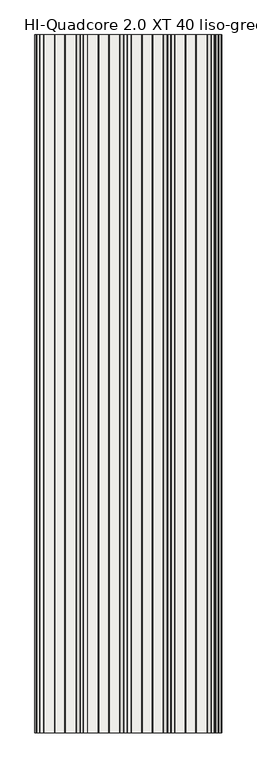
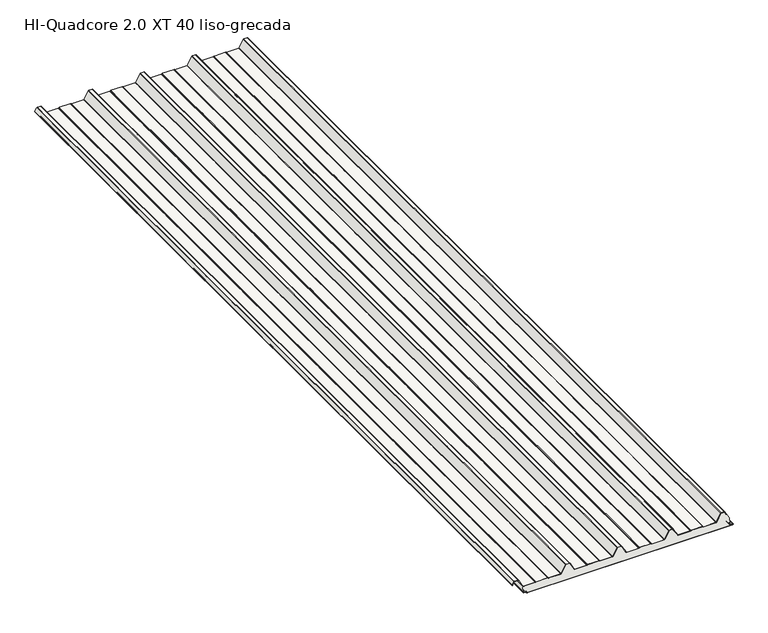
"""IFC4 building model written with IfcOpenShell, lengths in millimetres: slab geometry, Panel_HI_QuadCore 2.0 XT-XT DUAL_liso-grecada : HI-Quadcore 2.0 XT 40 liso-grecada."""

from ifc_helpers import new_model, si_unit, point, frame, frame_2d, origin, place, context, project, spatial, polyline, circle_curve, trimmed, segment, composite_curve, outline, extrude, source, transform, mapped, element, save
from ifc_brep_helpers import plane_surface, cylinder_surface, revolved_surface, advanced_brep


def hi_quadcore_2_0_xt_40_liso_grecada_2684bdf8(model_context):
    return source(origin(), model_context, "Body", "SolidModel", [
        advanced_brep(
        [(-463.5686109, 0.0, 13.3795578), (-464.1543582, 0.0, 11.9654043), (-464.1543963, 0.0, 8.2995811), (-462.3003213, 0.0, 6.328543), (-451.8922768, 0.0, 5.5663871), (-450.0967368, 0.0, 3.5769209), (-450.0966924, 0.0, 1.9756011), (-448.096637, 0.0, -0.0243435), (547.9162803, 0.0, 0.003269), (549.9046779, 0.0, 2.0032908), (549.904653, 0.0, 2.9012893), (548.0077486, 0.0, 4.8985749), (536.1928118, 0.0, 5.7933732), (534.3438482, 0.0, 7.7876066), (534.3437386, 0.0, 11.7402379), (533.757913, 0.0, 13.1544352), (532.3436602, 0.0, 14.5686095), (531.7779748, 0.0, 14.0029241), (533.1922433, 0.0, 12.5887341), (533.5437386, 0.0, 11.7402157), (533.5438482, 0.0, 7.7875844), (536.1323972, 0.0, 4.9956577), (547.958132, 0.0, 4.1000416), (549.104653, 0.0, 2.9012672), (549.1046779, 0.0, 2.0032686), (547.9136554, 0.0, 0.8032689), (-448.0966592, 0.0, 0.7756565), (-449.2966924, 0.0, 1.9756233), (-449.2967368, 0.0, 3.5769431), (-451.8231384, 0.0, 6.3634663), (-462.2418956, 0.0, 7.1264067), (-463.3542572, 0.0, 8.3231689), (-463.3543582, 0.0, 11.965396), (-463.0029098, 0.0, 12.8138881), (-460.8967817, 0.0, 14.920133), (-461.4624671, 0.0, 15.4858184), (-463.5686109, 4000.0, 13.3795578), (-461.4624671, 4000.0, 15.4858184), (-460.8967817, 4000.0, 14.920133), (-463.0029098, 4000.0, 12.8138881), (-463.3543582, 4000.0, 11.965396), (-463.3543963, 4000.0, 8.2995728), (-462.2418956, 4000.0, 7.1264067), (-451.8231384, 4000.0, 6.3634663), (-449.2967368, 4000.0, 3.5769431), (-449.2966924, 4000.0, 1.9756233), (-448.0966592, 4000.0, 0.7756565), (547.9136554, 4000.0, 0.8032689), (549.1046779, 4000.0, 2.0032686), (549.104653, 4000.0, 2.9012672), (547.958132, 4000.0, 4.1000416), (536.1323972, 4000.0, 4.9956577), (533.5438482, 4000.0, 7.7875844), (533.5437386, 4000.0, 11.7402157), (533.1922433, 4000.0, 12.5887341), (531.7779748, 4000.0, 14.0029241), (532.3436602, 4000.0, 14.5686095), (533.757913, 4000.0, 13.1544352), (534.3437386, 4000.0, 11.7402379), (534.3438482, 4000.0, 7.7876066), (536.1928118, 4000.0, 5.7933732), (548.0077486, 4000.0, 4.8985749), (549.904653, 4000.0, 2.9012893), (549.9046779, 4000.0, 2.0032908), (547.9162803, 4000.0, 0.003269), (-448.096637, 4000.0, -0.0243435), (-450.0966924, 4000.0, 1.9756011), (-450.0967368, 4000.0, 3.5769209), (-451.8922768, 4000.0, 5.5663871), (-462.3003213, 4000.0, 6.328543), (-464.1542572, 4000.0, 8.3231467), (-464.1543582, 4000.0, 11.9654043)],
        [
            (0, 1, circle_curve(frame((-462.1543582, 0.0, 11.9653834), z_axis=(0.0, -1.0, 0.0), x_axis=(1.0, 0.0, 0.0)), 2.0)),
            (1, 2),
            (2, 3, circle_curve(frame((-462.1542572, 0.0, 8.3232022), z_axis=(0.0, -1.0, 0.0), x_axis=(1.0, 0.0, 0.0)), 2.0)),
            (3, 4),
            (4, 5, circle_curve(frame((-452.0967368, 0.0, 3.5768655), z_axis=(0.0, 1.0, 0.0), x_axis=(1.0, 0.0, 0.0)), 2.0)),
            (5, 6),
            (6, 7, circle_curve(frame((-448.0966924, 0.0, 1.9756565), z_axis=(0.0, -1.0, 0.0), x_axis=(1.0, 0.0, 0.0)), 2.0)),
            (7, 8),
            (8, 9, circle_curve(frame((547.9046779, 0.0, 2.0032353), z_axis=(0.0, -1.0, 0.0), x_axis=(1.0, 0.0, 0.0)), 2.0)),
            (9, 10),
            (10, 11, circle_curve(frame((547.904653, 0.0, 2.9012339), z_axis=(0.0, -1.0, 0.0), x_axis=(1.0, 0.0, 0.0)), 2.0)),
            (11, 12),
            (12, 13, circle_curve(frame((536.3438482, 0.0, 7.7876621), z_axis=(0.0, 1.0, 0.0), x_axis=(1.0, 0.0, 0.0)), 2.0)),
            (13, 14),
            (14, 15, circle_curve(frame((532.3437386, 0.0, 11.7401824), z_axis=(0.0, -1.0, 0.0), x_axis=(1.0, 0.0, 0.0)), 2.0)),
            (15, 16),
            (16, 17),
            (17, 18),
            (18, 19, circle_curve(frame((532.3437386, 0.0, 11.7401824), z_axis=(0.0, 1.0, 0.0), x_axis=(1.0, 0.0, 0.0)), 1.2)),
            (19, 20),
            (20, 21, circle_curve(frame((536.3438482, 0.0, 7.7876621), z_axis=(0.0, -1.0, 0.0), x_axis=(1.0, 0.0, 0.0)), 2.8)),
            (21, 22),
            (22, 23, circle_curve(frame((547.904653, 0.0, 2.9012339), z_axis=(0.0, 1.0, 0.0), x_axis=(1.0, 0.0, 0.0)), 1.2)),
            (23, 24),
            (24, 25, circle_curve(frame((547.9046779, 0.0, 2.0032353), z_axis=(0.0, 1.0, 0.0), x_axis=(1.0, 0.0, 0.0)), 1.2)),
            (25, 26),
            (26, 27, circle_curve(frame((-448.0966924, 0.0, 1.9756565), z_axis=(0.0, 1.0, 0.0), x_axis=(1.0, 0.0, 0.0)), 1.2)),
            (27, 28),
            (28, 29, circle_curve(frame((-452.0967368, 0.0, 3.5768655), z_axis=(0.0, -1.0, 0.0), x_axis=(1.0, 0.0, 0.0)), 2.8)),
            (29, 30),
            (30, 31, circle_curve(frame((-462.1542572, 0.0, 8.3232022), z_axis=(0.0, 1.0, 0.0), x_axis=(1.0, 0.0, 0.0)), 1.2)),
            (31, 32),
            (32, 33, circle_curve(frame((-462.1543582, 0.0, 11.9653834), z_axis=(0.0, 1.0, 0.0), x_axis=(1.0, 0.0, 0.0)), 1.2)),
            (33, 34),
            (34, 35),
            (35, 0),
            (36, 37),
            (37, 38),
            (38, 39),
            (39, 40, circle_curve(frame((-462.1543582, 4000.0, 11.9653834), z_axis=(0.0, -1.0, 0.0), x_axis=(1.0, 0.0, 0.0)), 1.2)),
            (40, 41),
            (41, 42, circle_curve(frame((-462.1542572, 4000.0, 8.3232022), z_axis=(0.0, -1.0, 0.0), x_axis=(1.0, 0.0, 0.0)), 1.2)),
            (42, 43),
            (43, 44, circle_curve(frame((-452.0967368, 4000.0, 3.5768655), z_axis=(0.0, 1.0, 0.0), x_axis=(1.0, 0.0, 0.0)), 2.8)),
            (44, 45),
            (45, 46, circle_curve(frame((-448.0966924, 4000.0, 1.9756565), z_axis=(0.0, -1.0, 0.0), x_axis=(1.0, 0.0, 0.0)), 1.2)),
            (46, 47),
            (47, 48, circle_curve(frame((547.9046779, 4000.0, 2.0032353), z_axis=(0.0, -1.0, 0.0), x_axis=(1.0, 0.0, 0.0)), 1.2)),
            (48, 49),
            (49, 50, circle_curve(frame((547.904653, 4000.0, 2.9012339), z_axis=(0.0, -1.0, 0.0), x_axis=(1.0, 0.0, 0.0)), 1.2)),
            (50, 51),
            (51, 52, circle_curve(frame((536.3438482, 4000.0, 7.7876621), z_axis=(0.0, 1.0, 0.0), x_axis=(1.0, 0.0, 0.0)), 2.8)),
            (52, 53),
            (53, 54, circle_curve(frame((532.3437386, 4000.0, 11.7401824), z_axis=(0.0, -1.0, 0.0), x_axis=(1.0, 0.0, 0.0)), 1.2)),
            (54, 55),
            (55, 56),
            (56, 57),
            (57, 58, circle_curve(frame((532.3437386, 4000.0, 11.7401824), z_axis=(0.0, 1.0, 0.0), x_axis=(1.0, 0.0, 0.0)), 2.0)),
            (58, 59),
            (59, 60, circle_curve(frame((536.3438482, 4000.0, 7.7876621), z_axis=(0.0, -1.0, 0.0), x_axis=(1.0, 0.0, 0.0)), 2.0)),
            (60, 61),
            (61, 62, circle_curve(frame((547.904653, 4000.0, 2.9012339), z_axis=(0.0, 1.0, 0.0), x_axis=(1.0, 0.0, 0.0)), 2.0)),
            (62, 63),
            (63, 64, circle_curve(frame((547.9046779, 4000.0, 2.0032353), z_axis=(0.0, 1.0, 0.0), x_axis=(1.0, 0.0, 0.0)), 2.0)),
            (64, 65),
            (65, 66, circle_curve(frame((-448.0966924, 4000.0, 1.9756565), z_axis=(0.0, 1.0, 0.0), x_axis=(1.0, 0.0, 0.0)), 2.0)),
            (66, 67),
            (67, 68, circle_curve(frame((-452.0967368, 4000.0, 3.5768655), z_axis=(0.0, -1.0, 0.0), x_axis=(1.0, 0.0, 0.0)), 2.0)),
            (68, 69),
            (69, 70, circle_curve(frame((-462.1542572, 4000.0, 8.3232022), z_axis=(0.0, 1.0, 0.0), x_axis=(1.0, 0.0, 0.0)), 2.0)),
            (70, 71),
            (71, 36, circle_curve(frame((-462.1543582, 4000.0, 11.9653834), z_axis=(0.0, 1.0, 0.0), x_axis=(1.0, 0.0, 0.0)), 2.0)),
            (0, 36),
            (71, 1),
            (70, 2),
            (69, 3),
            (68, 4),
            (67, 5),
            (66, 6),
            (65, 7),
            (64, 8),
            (63, 9),
            (62, 10),
            (61, 11),
            (60, 12),
            (59, 13),
            (58, 14),
            (57, 15),
            (56, 16),
            (55, 17),
            (54, 18),
            (53, 19),
            (52, 20),
            (51, 21),
            (50, 22),
            (49, 23),
            (48, 24),
            (47, 25),
            (46, 26),
            (45, 27),
            (44, 28),
            (43, 29),
            (42, 30),
            (41, 31),
            (40, 32),
            (39, 33),
            (38, 34),
            (37, 35),
        ],
        [
            plane_surface(frame((-460.1543582, 0.0, 11.9653834), z_axis=(0.0, -1.0, 0.0), x_axis=(0.0, 0.0, 1.0))),
            plane_surface(frame((-460.1543582, 4000.0, 11.9653834), z_axis=(0.0, 1.0, 0.0), x_axis=(0.0, 0.0, -1.0))),
            cylinder_surface(frame((-462.1543582, 4000.0, 11.9653834), z_axis=(0.0, -1.0, 0.0), x_axis=(1.0, 0.0, 0.0)), 2.0),
            plane_surface(frame((-464.1543582, 0.0, 11.9654043), z_axis=(-0.9999999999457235, 0.0, 1.041887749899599e-05), x_axis=(0.0, 1.0, 0.0))),
            cylinder_surface(frame((-462.1542572, 4000.0, 8.3232022), z_axis=(0.0, -1.0, 0.0), x_axis=(1.0, 0.0, 0.0)), 2.0),
            plane_surface(frame((-462.3003213, 0.0, 6.328543), z_axis=(-0.07303203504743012, 0.0, -0.9973295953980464), x_axis=(0.0, 1.0, 0.0))),
            revolved_surface(polyline([(-450.0967368, 4000.0, 3.5768655), (-450.0967368, 0.0, 3.5768655)]), (-452.0967368, 4000.0, 3.5768655), (0.0, 1.0, 0.0)),
            plane_surface(frame((-450.0967368, 0.0, 3.5769209), z_axis=(-0.9999999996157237, 0.0, -2.7722781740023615e-05), x_axis=(0.0, 1.0, 0.0))),
            cylinder_surface(frame((-448.0966924, 4000.0, 1.9756565), z_axis=(0.0, -1.0, 0.0), x_axis=(1.0, 0.0, 0.0)), 2.0),
            plane_surface(frame((-448.096637, 0.0, -0.0243435), z_axis=(2.772298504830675e-05, 0.0, -0.9999999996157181), x_axis=(0.0, 1.0, 0.0))),
            cylinder_surface(frame((547.9046779, 4000.0, 2.0032353), z_axis=(0.0, -1.0, 0.0), x_axis=(1.0, 0.0, 0.0)), 2.0),
            plane_surface(frame((549.9046779, 0.0, 2.0032908), z_axis=(0.9999999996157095, 0.0, 2.7723295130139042e-05), x_axis=(0.0, 1.0, 0.0))),
            cylinder_surface(frame((547.904653, 4000.0, 2.9012339), z_axis=(0.0, -1.0, 0.0), x_axis=(1.0, 0.0, 0.0)), 2.0),
            plane_surface(frame((548.0077486, 0.0, 4.8985749), z_axis=(0.07551822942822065, 0.0, 0.9971444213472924), x_axis=(0.0, 1.0, 0.0))),
            revolved_surface(polyline([(538.3438482, 4000.0, 7.7876621), (538.3438482, 0.0, 7.7876621)]), (536.3438482, 4000.0, 7.7876621), (0.0, 1.0, 0.0)),
            plane_surface(frame((534.3438482, 0.0, 7.7876066), z_axis=(0.9999999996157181, 0.0, 2.7722984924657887e-05), x_axis=(0.0, 1.0, 0.0))),
            cylinder_surface(frame((532.3437386, 4000.0, 11.7401824), z_axis=(0.0, -1.0, 0.0), x_axis=(1.0, 0.0, 0.0)), 2.0),
            plane_surface(frame((533.757913, 0.0, 13.1544352), z_axis=(0.7070871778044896, 0.0, 0.7071263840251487), x_axis=(0.0, 1.0, 0.0))),
            plane_surface(frame((532.3436602, 0.0, 14.5686095), z_axis=(-0.7071067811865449, 0.0, 0.7071067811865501), x_axis=(0.0, 1.0, 0.0))),
            plane_surface(frame((531.7779748, 0.0, 14.0029241), z_axis=(-0.7070871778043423, 0.0, -0.707126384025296), x_axis=(0.0, 1.0, 0.0))),
            revolved_surface(polyline([(533.5437386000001, 4000.0, 11.7401824), (533.5437386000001, 0.0, 11.7401824)]), (532.3437386, 4000.0, 11.7401824), (0.0, 1.0, 0.0)),
            plane_surface(frame((533.5437386, 0.0, 11.7402157), z_axis=(-0.9999999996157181, 0.0, -2.7722985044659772e-05), x_axis=(0.0, 1.0, 0.0))),
            cylinder_surface(frame((536.3438482, 4000.0, 7.7876621), z_axis=(0.0, -1.0, 0.0), x_axis=(1.0, 0.0, 0.0)), 2.8),
            plane_surface(frame((536.1323972, 0.0, 4.9956577), z_axis=(-0.07551822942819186, 0.0, -0.9971444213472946), x_axis=(0.0, 1.0, 0.0))),
            revolved_surface(polyline([(549.1046530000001, 4000.0, 2.9012339), (549.1046530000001, 0.0, 2.9012339)]), (547.904653, 4000.0, 2.9012339), (0.0, 1.0, 0.0)),
            plane_surface(frame((549.104653, 0.0, 2.9012672), z_axis=(-0.9999999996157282, 0.0, -2.7722622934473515e-05), x_axis=(0.0, 1.0, 0.0))),
            revolved_surface(polyline([(549.1046779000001, 4000.0, 2.0032353), (549.1046779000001, 0.0, 2.0032353)]), (547.9046779, 4000.0, 2.0032353), (0.0, 1.0, 0.0)),
            plane_surface(frame((547.9136554, 0.0, 0.8032689), z_axis=(-2.7722985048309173e-05, 0.0, 0.9999999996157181), x_axis=(0.0, 1.0, 0.0))),
            revolved_surface(polyline([(-446.8966924, 4000.0, 1.9756565), (-446.8966924, 0.0, 1.9756565)]), (-448.0966924, 4000.0, 1.9756565), (0.0, 1.0, 0.0)),
            plane_surface(frame((-449.2966924, 0.0, 1.9756233), z_axis=(0.9999999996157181, 0.0, 2.7722983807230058e-05), x_axis=(0.0, 1.0, 0.0))),
            cylinder_surface(frame((-452.0967368, 4000.0, 3.5768655), z_axis=(0.0, -1.0, 0.0), x_axis=(1.0, 0.0, 0.0)), 2.8),
            plane_surface(frame((-451.8231384, 0.0, 6.3634663), z_axis=(0.0730320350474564, 0.0, 0.9973295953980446), x_axis=(0.0, 1.0, 0.0))),
            revolved_surface(polyline([(-460.95425720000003, 4000.0, 8.3232022), (-460.95425720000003, 0.0, 8.3232022)]), (-462.1542572, 4000.0, 8.3232022), (0.0, 1.0, 0.0)),
            plane_surface(frame((-463.3543963, 0.0, 8.2995728), z_axis=(0.9999999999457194, 0.0, -1.0419274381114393e-05), x_axis=(0.0, 1.0, 0.0))),
            revolved_surface(polyline([(-460.9543582, 4000.0, 11.9653834), (-460.9543582, 0.0, 11.9653834)]), (-462.1543582, 4000.0, 11.9653834), (0.0, 1.0, 0.0)),
            plane_surface(frame((-463.0029098, 0.0, 12.8138881), z_axis=(0.7071263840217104, 0.0, -0.7070871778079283), x_axis=(0.0, 1.0, 0.0))),
            plane_surface(frame((-460.8967817, 0.0, 14.920133), z_axis=(0.7071067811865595, 0.0, 0.7071067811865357), x_axis=(0.0, 1.0, 0.0))),
            plane_surface(frame((-461.4624671, 0.0, 15.4858184), z_axis=(-0.7071263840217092, 0.0, 0.7070871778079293), x_axis=(0.0, 1.0, 0.0))),
        ],
        [
            (0, [[1, 2, 3, 4, 5, 6, 7, 8, 9, 10, 11, 12, 13, 14, 15, 16, 17, 18, 19, 20, 21, 22, 23, 24, 25, 26, 27, 28, 29, 30, 31, 32, 33, 34, 35, 36]]),
            (1, [[37, 38, 39, 40, 41, 42, 43, 44, 45, 46, 47, 48, 49, 50, 51, 52, 53, 54, 55, 56, 57, 58, 59, 60, 61, 62, 63, 64, 65, 66, 67, 68, 69, 70, 71, 72]]),
            (2, [[-1, 73, -72, 74]]),
            (3, [[-2, -74, -71, 75]]),
            (4, [[-3, -75, -70, 76]]),
            (5, [[-4, -76, -69, 77]]),
            (6, [[-5, -77, -68, 78]]),
            (7, [[-6, -78, -67, 79]]),
            (8, [[-7, -79, -66, 80]]),
            (9, [[-8, -80, -65, 81]]),
            (10, [[-9, -81, -64, 82]]),
            (11, [[-10, -82, -63, 83]]),
            (12, [[-11, -83, -62, 84]]),
            (13, [[-12, -84, -61, 85]]),
            (14, [[-13, -85, -60, 86]]),
            (15, [[-14, -86, -59, 87]]),
            (16, [[-15, -87, -58, 88]]),
            (17, [[-16, -88, -57, 89]]),
            (18, [[-17, -89, -56, 90]]),
            (19, [[-18, -90, -55, 91]]),
            (20, [[-19, -91, -54, 92]]),
            (21, [[-20, -92, -53, 93]]),
            (22, [[-21, -93, -52, 94]]),
            (23, [[-22, -94, -51, 95]]),
            (24, [[-23, -95, -50, 96]]),
            (25, [[-24, -96, -49, 97]]),
            (26, [[-25, -97, -48, 98]]),
            (27, [[-26, -98, -47, 99]]),
            (28, [[-27, -99, -46, 100]]),
            (29, [[-28, -100, -45, 101]]),
            (30, [[-29, -101, -44, 102]]),
            (31, [[-30, -102, -43, 103]]),
            (32, [[-31, -103, -42, 104]]),
            (33, [[-32, -104, -41, 105]]),
            (34, [[-33, -105, -40, 106]]),
            (35, [[-34, -106, -39, 107]]),
            (36, [[-35, -107, -38, 108]]),
            (37, [[-36, -108, -37, -73]]),
        ],
    ),
        extrude(outline(composite_curve([segment(polyline([(78.1649405, -511.4858571), (63.6579587, -519.6460344)]), True, "CONTINUOUS"), segment(trimmed(circle_curve(frame_2d((63.0451321, -518.556565)), 1.25), [point((63.6579587, -519.6460344))], [point((62.689225, -517.3583037))], False, "CARTESIAN"), True, "CONTINUOUS"), segment(polyline([(62.689225, -517.3583037), (65.7359115, -516.562859), (65.9380053, -517.336912), (62.9074492, -518.1281453)]), True, "CONTINUOUS"), segment(trimmed(circle_curve(frame_2d((63.0451321, -518.556565)), 0.45), [point((62.9074492, -518.1281453))], [point((63.2657497, -518.948774))], True, "CARTESIAN"), True, "CONTINUOUS"), segment(polyline([(63.2657497, -518.948774), (77.7727315, -510.7885967)]), True, "CONTINUOUS"), segment(trimmed(circle_curve(frame_2d((76.4, -508.3481852)), 2.8), [point((77.7727315, -510.7885967))], [point((79.2, -508.3481852))], True, "CARTESIAN"), True, "CONTINUOUS"), segment(polyline([(79.2, -508.3481852), (79.2, -491.0688883)]), True, "CONTINUOUS"), segment(trimmed(circle_curve(frame_2d((76.4, -491.0688883)), 2.8), [point((79.2, -491.0688883))], [point((77.5457267, -488.5140281))], True, "CARTESIAN"), True, "CONTINUOUS"), segment(polyline([(77.5457267, -488.5140281), (41.2048889, -468.6947225)]), True, "CONTINUOUS"), segment(trimmed(circle_curve(frame_2d((43.0, -465.3454575)), 3.8), [point((41.2048889, -468.6947225))], [point((39.2, -465.3454575))], False, "CARTESIAN"), True, "CONTINUOUS"), segment(polyline([(39.2, -465.3454575), (39.2, -407.5510443)]), True, "CONTINUOUS"), segment(trimmed(circle_curve(frame_2d((43.0, -407.5510443)), 3.8), [point((39.2, -407.5510443))], [point((39.6973596, -405.671532))], False, "CARTESIAN"), True, "CONTINUOUS"), segment(polyline([(39.6973596, -405.671532), (40.912055, -403.5370944)]), True, "CONTINUOUS"), segment(trimmed(circle_curve(frame_2d((39.0, -402.4489557)), 2.2), [point((40.912055, -403.5370944))], [point((41.2, -402.4489557))], True, "CARTESIAN"), True, "CONTINUOUS"), segment(polyline([(41.2, -402.4489557), (41.2, -347.5510443)]), True, "CONTINUOUS"), segment(trimmed(circle_curve(frame_2d((39.0, -347.5510443)), 2.2), [point((41.2, -347.5510443))], [point((40.912055, -346.4629056))], True, "CARTESIAN"), True, "CONTINUOUS"), segment(polyline([(40.912055, -346.4629056), (39.6973596, -344.328468)]), True, "CONTINUOUS"), segment(trimmed(circle_curve(frame_2d((43.0, -342.4489557)), 3.8), [point((39.6973596, -344.328468))], [point((39.2, -342.4489557))], False, "CARTESIAN"), True, "CONTINUOUS"), segment(polyline([(39.2, -342.4489557), (39.2, -284.2545425)]), True, "CONTINUOUS"), segment(trimmed(circle_curve(frame_2d((43.0, -284.2545425)), 3.8), [point((39.2, -284.2545425))], [point((41.1370073, -280.9425554))], False, "CARTESIAN"), True, "CONTINUOUS"), segment(polyline([(41.1370073, -280.9425554), (78.0785747, -260.1629237)]), True, "CONTINUOUS"), segment(trimmed(circle_curve(frame_2d((77.0, -258.2454575)), 2.2), [point((78.0785747, -260.1629237))], [point((79.2, -258.2454575))], True, "CARTESIAN"), True, "CONTINUOUS"), segment(polyline([(79.2, -258.2454575), (79.2, -241.7545425)]), True, "CONTINUOUS"), segment(trimmed(circle_curve(frame_2d((77.0, -241.7545425)), 2.2), [point((79.2, -241.7545425))], [point((78.0785747, -239.8370763))], True, "CARTESIAN"), True, "CONTINUOUS"), segment(polyline([(78.0785747, -239.8370763), (41.1370073, -219.0574446)]), True, "CONTINUOUS"), segment(trimmed(circle_curve(frame_2d((43.0, -215.7454575)), 3.8), [point((41.1370073, -219.0574446))], [point((39.2, -215.7454575))], False, "CARTESIAN"), True, "CONTINUOUS"), segment(polyline([(39.2, -215.7454575), (39.2, -157.5510443)]), True, "CONTINUOUS"), segment(trimmed(circle_curve(frame_2d((43.0, -157.5510443)), 3.8), [point((39.2, -157.5510443))], [point((39.6973596, -155.671532))], False, "CARTESIAN"), True, "CONTINUOUS"), segment(polyline([(39.6973596, -155.671532), (40.912055, -153.5370944)]), True, "CONTINUOUS"), segment(trimmed(circle_curve(frame_2d((39.0, -152.4489557)), 2.2), [point((40.912055, -153.5370944))], [point((41.2, -152.4489557))], True, "CARTESIAN"), True, "CONTINUOUS"), segment(polyline([(41.2, -152.4489557), (41.2, -97.5510443)]), True, "CONTINUOUS"), segment(trimmed(circle_curve(frame_2d((39.0, -97.5510443)), 2.2), [point((41.2, -97.5510443))], [point((40.912055, -96.4629056))], True, "CARTESIAN"), True, "CONTINUOUS"), segment(polyline([(40.912055, -96.4629056), (39.6973596, -94.328468)]), True, "CONTINUOUS"), segment(trimmed(circle_curve(frame_2d((43.0, -92.4489557)), 3.8), [point((39.6973596, -94.328468))], [point((39.2, -92.4489557))], False, "CARTESIAN"), True, "CONTINUOUS"), segment(polyline([(39.2, -92.4489557), (39.2, -34.2545425)]), True, "CONTINUOUS"), segment(trimmed(circle_curve(frame_2d((43.0, -34.2545425)), 3.8), [point((39.2, -34.2545425))], [point((41.1370073, -30.9425554))], False, "CARTESIAN"), True, "CONTINUOUS"), segment(polyline([(41.1370073, -30.9425554), (78.0785747, -10.1629237)]), True, "CONTINUOUS"), segment(trimmed(circle_curve(frame_2d((77.0, -8.2454575)), 2.2), [point((78.0785747, -10.1629237))], [point((79.2, -8.2454575))], True, "CARTESIAN"), True, "CONTINUOUS"), segment(polyline([(79.2, -8.2454575), (79.2, 8.2454575)]), True, "CONTINUOUS"), segment(trimmed(circle_curve(frame_2d((77.0, 8.2454575)), 2.2), [point((79.2, 8.2454575))], [point((78.0785747, 10.1629237))], True, "CARTESIAN"), True, "CONTINUOUS"), segment(polyline([(78.0785747, 10.1629237), (41.1370073, 30.9425554)]), True, "CONTINUOUS"), segment(trimmed(circle_curve(frame_2d((43.0, 34.2545425)), 3.8), [point((41.1370073, 30.9425554))], [point((39.2, 34.2545425))], False, "CARTESIAN"), True, "CONTINUOUS"), segment(polyline([(39.2, 34.2545425), (39.2, 92.4489557)]), True, "CONTINUOUS"), segment(trimmed(circle_curve(frame_2d((43.0, 92.4489557)), 3.8), [point((39.2, 92.4489557))], [point((39.6973596, 94.328468))], False, "CARTESIAN"), True, "CONTINUOUS"), segment(polyline([(39.6973596, 94.328468), (40.912055, 96.4629056)]), True, "CONTINUOUS"), segment(trimmed(circle_curve(frame_2d((39.0, 97.5510443)), 2.2), [point((40.912055, 96.4629056))], [point((41.2, 97.5510443))], True, "CARTESIAN"), True, "CONTINUOUS"), segment(polyline([(41.2, 97.5510443), (41.2, 152.4489557)]), True, "CONTINUOUS"), segment(trimmed(circle_curve(frame_2d((39.0, 152.4489557)), 2.2), [point((41.2, 152.4489557))], [point((40.912055, 153.5370944))], True, "CARTESIAN"), True, "CONTINUOUS"), segment(polyline([(40.912055, 153.5370944), (39.6973596, 155.671532)]), True, "CONTINUOUS"), segment(trimmed(circle_curve(frame_2d((43.0, 157.5510443)), 3.8), [point((39.6973596, 155.671532))], [point((39.2, 157.5510443))], False, "CARTESIAN"), True, "CONTINUOUS"), segment(polyline([(39.2, 157.5510443), (39.2, 215.7454575)]), True, "CONTINUOUS"), segment(trimmed(circle_curve(frame_2d((43.0, 215.7454575)), 3.8), [point((39.2, 215.7454575))], [point((41.1370073, 219.0574446))], False, "CARTESIAN"), True, "CONTINUOUS"), segment(polyline([(41.1370073, 219.0574446), (78.0785747, 239.8370763)]), True, "CONTINUOUS"), segment(trimmed(circle_curve(frame_2d((77.0, 241.7545425)), 2.2), [point((78.0785747, 239.8370763))], [point((79.2, 241.7545425))], True, "CARTESIAN"), True, "CONTINUOUS"), segment(polyline([(79.2, 241.7545425), (79.2, 258.2454575)]), True, "CONTINUOUS"), segment(trimmed(circle_curve(frame_2d((77.0, 258.2454575)), 2.2), [point((79.2, 258.2454575))], [point((78.0785747, 260.1629237))], True, "CARTESIAN"), True, "CONTINUOUS"), segment(polyline([(78.0785747, 260.1629237), (41.1370073, 280.9425554)]), True, "CONTINUOUS"), segment(trimmed(circle_curve(frame_2d((43.0, 284.2545425)), 3.8), [point((41.1370073, 280.9425554))], [point((39.2, 284.2545425))], False, "CARTESIAN"), True, "CONTINUOUS"), segment(polyline([(39.2, 284.2545425), (39.2, 342.4489557)]), True, "CONTINUOUS"), segment(trimmed(circle_curve(frame_2d((43.0, 342.4489557)), 3.8), [point((39.2, 342.4489557))], [point((39.6973596, 344.328468))], False, "CARTESIAN"), True, "CONTINUOUS"), segment(polyline([(39.6973596, 344.328468), (40.912055, 346.4629056)]), True, "CONTINUOUS"), segment(trimmed(circle_curve(frame_2d((39.0, 347.5510443)), 2.2), [point((40.912055, 346.4629056))], [point((41.2, 347.5510443))], True, "CARTESIAN"), True, "CONTINUOUS"), segment(polyline([(41.2, 347.5510443), (41.2, 402.4489557)]), True, "CONTINUOUS"), segment(trimmed(circle_curve(frame_2d((39.0, 402.4489557)), 2.2), [point((41.2, 402.4489557))], [point((40.912055, 403.5370944))], True, "CARTESIAN"), True, "CONTINUOUS"), segment(polyline([(40.912055, 403.5370944), (39.6973596, 405.671532)]), True, "CONTINUOUS"), segment(trimmed(circle_curve(frame_2d((43.0, 407.5510443)), 3.8), [point((39.6973596, 405.671532))], [point((39.2, 407.5510443))], False, "CARTESIAN"), True, "CONTINUOUS"), segment(polyline([(39.2, 407.5510443), (39.2, 466.4208923)]), True, "CONTINUOUS"), segment(trimmed(circle_curve(frame_2d((43.0, 466.4208923)), 3.8), [point((39.2, 466.4208923))], [point((41.1583504, 469.7447946))], False, "CARTESIAN"), True, "CONTINUOUS"), segment(polyline([(41.1583504, 469.7447946), (78.0662182, 490.1940602)]), True, "CONTINUOUS"), segment(trimmed(circle_curve(frame_2d((77.0, 492.1184247)), 2.2), [point((78.0662182, 490.1940602))], [point((79.2, 492.1184247))], True, "CARTESIAN"), True, "CONTINUOUS"), segment(polyline([(79.2, 492.1184247), (79.2, 507.4945491)]), True, "CONTINUOUS"), segment(trimmed(circle_curve(frame_2d((77.0, 507.4945491)), 2.2), [point((79.2, 507.4945491))], [point((78.0785747, 509.4120152))], True, "CARTESIAN"), True, "CONTINUOUS"), segment(polyline([(78.0785747, 509.4120152), (67.5275176, 515.3469849)]), True, "CONTINUOUS"), segment(trimmed(circle_curve(frame_2d((66.9392041, 514.3010942)), 1.2), [point((67.5275176, 515.3469849))], [point((66.3392623, 515.3403583))], True, "CARTESIAN"), True, "CONTINUOUS"), segment(polyline([(66.3392623, 515.3403583), (64.7281681, 514.4103128), (64.3282068, 515.1031555), (65.939301, 516.033201)]), True, "CONTINUOUS"), segment(trimmed(circle_curve(frame_2d((66.9392041, 514.3010942)), 2.0), [point((65.939301, 516.033201))], [point((67.9197266, 516.0442453))], False, "CARTESIAN"), True, "CONTINUOUS"), segment(polyline([(67.9197266, 516.0442453), (78.4707837, 510.1092757)]), True, "CONTINUOUS"), segment(trimmed(circle_curve(frame_2d((77.0, 507.4945491)), 3.0), [point((78.4707837, 510.1092757))], [point((80.0, 507.4945491))], False, "CARTESIAN"), True, "CONTINUOUS"), segment(polyline([(80.0, 507.4945491), (80.0, 492.1184247)]), True, "CONTINUOUS"), segment(trimmed(circle_curve(frame_2d((77.0, 492.1184247)), 3.0), [point((80.0, 492.1184247))], [point((78.4539339, 489.4942913))], False, "CARTESIAN"), True, "CONTINUOUS"), segment(polyline([(78.4539339, 489.4942913), (41.5460661, 469.0450257)]), True, "CONTINUOUS"), segment(trimmed(circle_curve(frame_2d((43.0, 466.4208923)), 3.0), [point((41.5460661, 469.0450257))], [point((40.0, 466.4208923))], True, "CARTESIAN"), True, "CONTINUOUS"), segment(polyline([(40.0, 466.4208923), (40.0, 407.5510443)]), True, "CONTINUOUS"), segment(trimmed(circle_curve(frame_2d((43.0, 407.5510443)), 3.0), [point((40.0, 407.5510443))], [point((40.3926523, 406.0672188))], True, "CARTESIAN"), True, "CONTINUOUS"), segment(polyline([(40.3926523, 406.0672188), (41.6073477, 403.9327812)]), True, "CONTINUOUS"), segment(trimmed(circle_curve(frame_2d((39.0, 402.4489557)), 3.0), [point((41.6073477, 403.9327812))], [point((42.0, 402.4489557))], False, "CARTESIAN"), True, "CONTINUOUS"), segment(polyline([(42.0, 402.4489557), (42.0, 347.5510443)]), True, "CONTINUOUS"), segment(trimmed(circle_curve(frame_2d((39.0, 347.5510443)), 3.0), [point((42.0, 347.5510443))], [point((41.6073477, 346.0672188))], False, "CARTESIAN"), True, "CONTINUOUS"), segment(polyline([(41.6073477, 346.0672188), (40.3926523, 343.9327812)]), True, "CONTINUOUS"), segment(trimmed(circle_curve(frame_2d((43.0, 342.4489557)), 3.0), [point((40.3926523, 343.9327812))], [point((40.0, 342.4489557))], True, "CARTESIAN"), True, "CONTINUOUS"), segment(polyline([(40.0, 342.4489557), (40.0, 284.2545425)]), True, "CONTINUOUS"), segment(trimmed(circle_curve(frame_2d((43.0, 284.2545425)), 3.0), [point((40.0, 284.2545425))], [point((41.5292163, 281.6398158))], True, "CARTESIAN"), True, "CONTINUOUS"), segment(polyline([(41.5292163, 281.6398158), (78.4707837, 260.8601842)]), True, "CONTINUOUS"), segment(trimmed(circle_curve(frame_2d((77.0, 258.2454575)), 3.0), [point((78.4707837, 260.8601842))], [point((80.0, 258.2454575))], False, "CARTESIAN"), True, "CONTINUOUS"), segment(polyline([(80.0, 258.2454575), (80.0, 241.7545425)]), True, "CONTINUOUS"), segment(trimmed(circle_curve(frame_2d((77.0, 241.7545425)), 3.0), [point((80.0, 241.7545425))], [point((78.4707837, 239.1398158))], False, "CARTESIAN"), True, "CONTINUOUS"), segment(polyline([(78.4707837, 239.1398158), (41.5292163, 218.3601842)]), True, "CONTINUOUS"), segment(trimmed(circle_curve(frame_2d((43.0, 215.7454575)), 3.0), [point((41.5292163, 218.3601842))], [point((40.0, 215.7454575))], True, "CARTESIAN"), True, "CONTINUOUS"), segment(polyline([(40.0, 215.7454575), (40.0, 157.5510443)]), True, "CONTINUOUS"), segment(trimmed(circle_curve(frame_2d((43.0, 157.5510443)), 3.0), [point((40.0, 157.5510443))], [point((40.3926523, 156.0672188))], True, "CARTESIAN"), True, "CONTINUOUS"), segment(polyline([(40.3926523, 156.0672188), (41.6073477, 153.9327812)]), True, "CONTINUOUS"), segment(trimmed(circle_curve(frame_2d((39.0, 152.4489557)), 3.0), [point((41.6073477, 153.9327812))], [point((42.0, 152.4489557))], False, "CARTESIAN"), True, "CONTINUOUS"), segment(polyline([(42.0, 152.4489557), (42.0, 97.5510443)]), True, "CONTINUOUS"), segment(trimmed(circle_curve(frame_2d((39.0, 97.5510443)), 3.0), [point((42.0, 97.5510443))], [point((41.6073477, 96.0672188))], False, "CARTESIAN"), True, "CONTINUOUS"), segment(polyline([(41.6073477, 96.0672188), (40.3926523, 93.9327812)]), True, "CONTINUOUS"), segment(trimmed(circle_curve(frame_2d((43.0, 92.4489557)), 3.0), [point((40.3926523, 93.9327812))], [point((40.0, 92.4489557))], True, "CARTESIAN"), True, "CONTINUOUS"), segment(polyline([(40.0, 92.4489557), (40.0, 34.2545425)]), True, "CONTINUOUS"), segment(trimmed(circle_curve(frame_2d((43.0, 34.2545425)), 3.0), [point((40.0, 34.2545425))], [point((41.5292163, 31.6398158))], True, "CARTESIAN"), True, "CONTINUOUS"), segment(polyline([(41.5292163, 31.6398158), (78.4707837, 10.8601842)]), True, "CONTINUOUS"), segment(trimmed(circle_curve(frame_2d((77.0, 8.2454575)), 3.0), [point((78.4707837, 10.8601842))], [point((80.0, 8.2454575))], False, "CARTESIAN"), True, "CONTINUOUS"), segment(polyline([(80.0, 8.2454575), (80.0, -8.2454575)]), True, "CONTINUOUS"), segment(trimmed(circle_curve(frame_2d((77.0, -8.2454575)), 3.0), [point((80.0, -8.2454575))], [point((78.4707837, -10.8601842))], False, "CARTESIAN"), True, "CONTINUOUS"), segment(polyline([(78.4707837, -10.8601842), (41.5292163, -31.6398158)]), True, "CONTINUOUS"), segment(trimmed(circle_curve(frame_2d((43.0, -34.2545425)), 3.0), [point((41.5292163, -31.6398158))], [point((40.0, -34.2545425))], True, "CARTESIAN"), True, "CONTINUOUS"), segment(polyline([(40.0, -34.2545425), (40.0, -92.4489557)]), True, "CONTINUOUS"), segment(trimmed(circle_curve(frame_2d((43.0, -92.4489557)), 3.0), [point((40.0, -92.4489557))], [point((40.3926523, -93.9327812))], True, "CARTESIAN"), True, "CONTINUOUS"), segment(polyline([(40.3926523, -93.9327812), (41.6073477, -96.0672188)]), True, "CONTINUOUS"), segment(trimmed(circle_curve(frame_2d((39.0, -97.5510443)), 3.0), [point((41.6073477, -96.0672188))], [point((42.0, -97.5510443))], False, "CARTESIAN"), True, "CONTINUOUS"), segment(polyline([(42.0, -97.5510443), (42.0, -152.4489557)]), True, "CONTINUOUS"), segment(trimmed(circle_curve(frame_2d((39.0, -152.4489557)), 3.0), [point((42.0, -152.4489557))], [point((41.6073477, -153.9327812))], False, "CARTESIAN"), True, "CONTINUOUS"), segment(polyline([(41.6073477, -153.9327812), (40.3926523, -156.0672188)]), True, "CONTINUOUS"), segment(trimmed(circle_curve(frame_2d((43.0, -157.5510443)), 3.0), [point((40.3926523, -156.0672188))], [point((40.0, -157.5510443))], True, "CARTESIAN"), True, "CONTINUOUS"), segment(polyline([(40.0, -157.5510443), (40.0, -215.7454575)]), True, "CONTINUOUS"), segment(trimmed(circle_curve(frame_2d((43.0, -215.7454575)), 3.0), [point((40.0, -215.7454575))], [point((41.5292163, -218.3601842))], True, "CARTESIAN"), True, "CONTINUOUS"), segment(polyline([(41.5292163, -218.3601842), (78.4707837, -239.1398158)]), True, "CONTINUOUS"), segment(trimmed(circle_curve(frame_2d((77.0, -241.7545425)), 3.0), [point((78.4707837, -239.1398158))], [point((80.0, -241.7545425))], False, "CARTESIAN"), True, "CONTINUOUS"), segment(polyline([(80.0, -241.7545425), (80.0, -258.2454575)]), True, "CONTINUOUS"), segment(trimmed(circle_curve(frame_2d((77.0, -258.2454575)), 3.0), [point((80.0, -258.2454575))], [point((78.4707837, -260.8601842))], False, "CARTESIAN"), True, "CONTINUOUS"), segment(polyline([(78.4707837, -260.8601842), (41.5292163, -281.6398158)]), True, "CONTINUOUS"), segment(trimmed(circle_curve(frame_2d((43.0, -284.2545425)), 3.0), [point((41.5292163, -281.6398158))], [point((40.0, -284.2545425))], True, "CARTESIAN"), True, "CONTINUOUS"), segment(polyline([(40.0, -284.2545425), (40.0, -342.4489557)]), True, "CONTINUOUS"), segment(trimmed(circle_curve(frame_2d((43.0, -342.4489557)), 3.0), [point((40.0, -342.4489557))], [point((40.3926523, -343.9327812))], True, "CARTESIAN"), True, "CONTINUOUS"), segment(polyline([(40.3926523, -343.9327812), (41.6073477, -346.0672188)]), True, "CONTINUOUS"), segment(trimmed(circle_curve(frame_2d((39.0, -347.5510443)), 3.0), [point((41.6073477, -346.0672188))], [point((42.0, -347.5510443))], False, "CARTESIAN"), True, "CONTINUOUS"), segment(polyline([(42.0, -347.5510443), (42.0, -402.4489557)]), True, "CONTINUOUS"), segment(trimmed(circle_curve(frame_2d((39.0, -402.4489557)), 3.0), [point((42.0, -402.4489557))], [point((41.6073477, -403.9327812))], False, "CARTESIAN"), True, "CONTINUOUS"), segment(polyline([(41.6073477, -403.9327812), (40.3926523, -406.0672188)]), True, "CONTINUOUS"), segment(trimmed(circle_curve(frame_2d((43.0, -407.5510443)), 3.0), [point((40.3926523, -406.0672188))], [point((40.0, -407.5510443))], True, "CARTESIAN"), True, "CONTINUOUS"), segment(polyline([(40.0, -407.5510443), (40.0, -465.3454575)]), True, "CONTINUOUS"), segment(trimmed(circle_curve(frame_2d((43.0, -465.3454575)), 3.0), [point((40.0, -465.3454575))], [point((41.5852209, -467.9909065))], True, "CARTESIAN"), True, "CONTINUOUS"), segment(polyline([(41.5852209, -467.9909065), (77.9031732, -487.7977309)]), True, "CONTINUOUS"), segment(trimmed(circle_curve(frame_2d((76.4, -491.0688883)), 3.6), [point((77.9031732, -487.7977309))], [point((80.0, -491.0688883))], False, "CARTESIAN"), True, "CONTINUOUS"), segment(polyline([(80.0, -491.0688883), (80.0, -508.3481852)]), True, "CONTINUOUS"), segment(trimmed(circle_curve(frame_2d((76.4, -508.3481852)), 3.6), [point((80.0, -508.3481852))], [point((78.1649405, -511.4858571))], False, "CARTESIAN"), True, "CONTINUOUS")], self_intersect=False)), frame((0.0, 0.0, 0.0), z_axis=(0.0, 1.0, 0.0), x_axis=(0.0, 0.0, 1.0)), (0.0, 0.0, 1.0), 4000.0),
        extrude(outline(composite_curve([segment(polyline([(41.2667387, 531.036551), (67.9197266, 516.0442453)]), True, "CONTINUOUS"), segment(trimmed(circle_curve(frame_2d((66.9392041, 514.3010942)), 2.0), [point((67.9197266, 516.0442453))], [point((65.939301, 516.033201))], True, "CARTESIAN"), True, "CONTINUOUS"), segment(polyline([(65.939301, 516.033201), (64.3282068, 515.1031555), (64.7281681, 514.4103128), (66.3392623, 515.3403583)]), True, "CONTINUOUS"), segment(trimmed(circle_curve(frame_2d((66.9392041, 514.3010942)), 1.2), [point((66.3392623, 515.3403583))], [point((67.5275176, 515.3469849))], False, "CARTESIAN"), True, "CONTINUOUS"), segment(polyline([(67.5275176, 515.3469849), (78.0785747, 509.4120152)]), True, "CONTINUOUS"), segment(trimmed(circle_curve(frame_2d((77.0, 507.4945491)), 2.2), [point((78.0785747, 509.4120152))], [point((79.2, 507.4945491))], False, "CARTESIAN"), True, "CONTINUOUS"), segment(polyline([(79.2, 507.4945491), (79.2, 492.1184247)]), True, "CONTINUOUS"), segment(trimmed(circle_curve(frame_2d((77.0, 492.1184247)), 2.2), [point((79.2, 492.1184247))], [point((78.0662182, 490.1940602))], False, "CARTESIAN"), True, "CONTINUOUS"), segment(polyline([(78.0662182, 490.1940602), (41.1583504, 469.7447946)]), True, "CONTINUOUS"), segment(trimmed(circle_curve(frame_2d((43.0, 466.4208923)), 3.8), [point((41.1583504, 469.7447946))], [point((39.2, 466.4208923))], True, "CARTESIAN"), True, "CONTINUOUS"), segment(polyline([(39.2, 466.4208923), (39.2, 407.5510443)]), True, "CONTINUOUS"), segment(trimmed(circle_curve(frame_2d((43.0, 407.5510443)), 3.8), [point((39.2, 407.5510443))], [point((39.6973596, 405.671532))], True, "CARTESIAN"), True, "CONTINUOUS"), segment(polyline([(39.6973596, 405.671532), (40.912055, 403.5370944)]), True, "CONTINUOUS"), segment(trimmed(circle_curve(frame_2d((39.0, 402.4489557)), 2.2), [point((40.912055, 403.5370944))], [point((41.2, 402.4489557))], False, "CARTESIAN"), True, "CONTINUOUS"), segment(polyline([(41.2, 402.4489557), (41.2, 347.5510443)]), True, "CONTINUOUS"), segment(trimmed(circle_curve(frame_2d((39.0, 347.5510443)), 2.2), [point((41.2, 347.5510443))], [point((40.912055, 346.4629056))], False, "CARTESIAN"), True, "CONTINUOUS"), segment(polyline([(40.912055, 346.4629056), (39.6973596, 344.328468)]), True, "CONTINUOUS"), segment(trimmed(circle_curve(frame_2d((43.0, 342.4489557)), 3.8), [point((39.6973596, 344.328468))], [point((39.2, 342.4489557))], True, "CARTESIAN"), True, "CONTINUOUS"), segment(polyline([(39.2, 342.4489557), (39.2, 284.2545425)]), True, "CONTINUOUS"), segment(trimmed(circle_curve(frame_2d((43.0, 284.2545425)), 3.8), [point((39.2, 284.2545425))], [point((41.1370073, 280.9425554))], True, "CARTESIAN"), True, "CONTINUOUS"), segment(polyline([(41.1370073, 280.9425554), (78.0785747, 260.1629237)]), True, "CONTINUOUS"), segment(trimmed(circle_curve(frame_2d((77.0, 258.2454575)), 2.2), [point((78.0785747, 260.1629237))], [point((79.2, 258.2454575))], False, "CARTESIAN"), True, "CONTINUOUS"), segment(polyline([(79.2, 258.2454575), (79.2, 241.7545425)]), True, "CONTINUOUS"), segment(trimmed(circle_curve(frame_2d((77.0, 241.7545425)), 2.2), [point((79.2, 241.7545425))], [point((78.0785747, 239.8370763))], False, "CARTESIAN"), True, "CONTINUOUS"), segment(polyline([(78.0785747, 239.8370763), (41.1370073, 219.0574446)]), True, "CONTINUOUS"), segment(trimmed(circle_curve(frame_2d((43.0, 215.7454575)), 3.8), [point((41.1370073, 219.0574446))], [point((39.2, 215.7454575))], True, "CARTESIAN"), True, "CONTINUOUS"), segment(polyline([(39.2, 215.7454575), (39.2, 157.5510443)]), True, "CONTINUOUS"), segment(trimmed(circle_curve(frame_2d((43.0, 157.5510443)), 3.8), [point((39.2, 157.5510443))], [point((39.6973596, 155.671532))], True, "CARTESIAN"), True, "CONTINUOUS"), segment(polyline([(39.6973596, 155.671532), (40.912055, 153.5370944)]), True, "CONTINUOUS"), segment(trimmed(circle_curve(frame_2d((39.0, 152.4489557)), 2.2), [point((40.912055, 153.5370944))], [point((41.2, 152.4489557))], False, "CARTESIAN"), True, "CONTINUOUS"), segment(polyline([(41.2, 152.4489557), (41.2, 97.5510443)]), True, "CONTINUOUS"), segment(trimmed(circle_curve(frame_2d((39.0, 97.5510443)), 2.2), [point((41.2, 97.5510443))], [point((40.912055, 96.4629056))], False, "CARTESIAN"), True, "CONTINUOUS"), segment(polyline([(40.912055, 96.4629056), (39.6973596, 94.328468)]), True, "CONTINUOUS"), segment(trimmed(circle_curve(frame_2d((43.0, 92.4489557)), 3.8), [point((39.6973596, 94.328468))], [point((39.2, 92.4489557))], True, "CARTESIAN"), True, "CONTINUOUS"), segment(polyline([(39.2, 92.4489557), (39.2, 34.2545425)]), True, "CONTINUOUS"), segment(trimmed(circle_curve(frame_2d((43.0, 34.2545425)), 3.8), [point((39.2, 34.2545425))], [point((41.1370073, 30.9425554))], True, "CARTESIAN"), True, "CONTINUOUS"), segment(polyline([(41.1370073, 30.9425554), (78.0785747, 10.1629237)]), True, "CONTINUOUS"), segment(trimmed(circle_curve(frame_2d((77.0, 8.2454575)), 2.2), [point((78.0785747, 10.1629237))], [point((79.2, 8.2454575))], False, "CARTESIAN"), True, "CONTINUOUS"), segment(polyline([(79.2, 8.2454575), (79.2, -8.2454575)]), True, "CONTINUOUS"), segment(trimmed(circle_curve(frame_2d((77.0, -8.2454575)), 2.2), [point((79.2, -8.2454575))], [point((78.0785747, -10.1629237))], False, "CARTESIAN"), True, "CONTINUOUS"), segment(polyline([(78.0785747, -10.1629237), (41.1370073, -30.9425554)]), True, "CONTINUOUS"), segment(trimmed(circle_curve(frame_2d((43.0, -34.2545425)), 3.8), [point((41.1370073, -30.9425554))], [point((39.2, -34.2545425))], True, "CARTESIAN"), True, "CONTINUOUS"), segment(polyline([(39.2, -34.2545425), (39.2, -92.4489557)]), True, "CONTINUOUS"), segment(trimmed(circle_curve(frame_2d((43.0, -92.4489557)), 3.8), [point((39.2, -92.4489557))], [point((39.6973596, -94.328468))], True, "CARTESIAN"), True, "CONTINUOUS"), segment(polyline([(39.6973596, -94.328468), (40.912055, -96.4629056)]), True, "CONTINUOUS"), segment(trimmed(circle_curve(frame_2d((39.0, -97.5510443)), 2.2), [point((40.912055, -96.4629056))], [point((41.2, -97.5510443))], False, "CARTESIAN"), True, "CONTINUOUS"), segment(polyline([(41.2, -97.5510443), (41.2, -152.4489557)]), True, "CONTINUOUS"), segment(trimmed(circle_curve(frame_2d((39.0, -152.4489557)), 2.2), [point((41.2, -152.4489557))], [point((40.912055, -153.5370944))], False, "CARTESIAN"), True, "CONTINUOUS"), segment(polyline([(40.912055, -153.5370944), (39.6973596, -155.671532)]), True, "CONTINUOUS"), segment(trimmed(circle_curve(frame_2d((43.0, -157.5510443)), 3.8), [point((39.6973596, -155.671532))], [point((39.2, -157.5510443))], True, "CARTESIAN"), True, "CONTINUOUS"), segment(polyline([(39.2, -157.5510443), (39.2, -215.7454575)]), True, "CONTINUOUS"), segment(trimmed(circle_curve(frame_2d((43.0, -215.7454575)), 3.8), [point((39.2, -215.7454575))], [point((41.1370073, -219.0574446))], True, "CARTESIAN"), True, "CONTINUOUS"), segment(polyline([(41.1370073, -219.0574446), (78.0785747, -239.8370763)]), True, "CONTINUOUS"), segment(trimmed(circle_curve(frame_2d((77.0, -241.7545425)), 2.2), [point((78.0785747, -239.8370763))], [point((79.2, -241.7545425))], False, "CARTESIAN"), True, "CONTINUOUS"), segment(polyline([(79.2, -241.7545425), (79.2, -258.2454575)]), True, "CONTINUOUS"), segment(trimmed(circle_curve(frame_2d((77.0, -258.2454575)), 2.2), [point((79.2, -258.2454575))], [point((78.0785747, -260.1629237))], False, "CARTESIAN"), True, "CONTINUOUS"), segment(polyline([(78.0785747, -260.1629237), (41.1370073, -280.9425554)]), True, "CONTINUOUS"), segment(trimmed(circle_curve(frame_2d((43.0, -284.2545425)), 3.8), [point((41.1370073, -280.9425554))], [point((39.2, -284.2545425))], True, "CARTESIAN"), True, "CONTINUOUS"), segment(polyline([(39.2, -284.2545425), (39.2, -342.4489557)]), True, "CONTINUOUS"), segment(trimmed(circle_curve(frame_2d((43.0, -342.4489557)), 3.8), [point((39.2, -342.4489557))], [point((39.6973596, -344.328468))], True, "CARTESIAN"), True, "CONTINUOUS"), segment(polyline([(39.6973596, -344.328468), (40.912055, -346.4629056)]), True, "CONTINUOUS"), segment(trimmed(circle_curve(frame_2d((39.0, -347.5510443)), 2.2), [point((40.912055, -346.4629056))], [point((41.2, -347.5510443))], False, "CARTESIAN"), True, "CONTINUOUS"), segment(polyline([(41.2, -347.5510443), (41.2, -402.4489557)]), True, "CONTINUOUS"), segment(trimmed(circle_curve(frame_2d((39.0, -402.4489557)), 2.2), [point((41.2, -402.4489557))], [point((40.912055, -403.5370944))], False, "CARTESIAN"), True, "CONTINUOUS"), segment(polyline([(40.912055, -403.5370944), (39.6973596, -405.671532)]), True, "CONTINUOUS"), segment(trimmed(circle_curve(frame_2d((43.0, -407.5510443)), 3.8), [point((39.6973596, -405.671532))], [point((39.2, -407.5510443))], True, "CARTESIAN"), True, "CONTINUOUS"), segment(polyline([(39.2, -407.5510443), (39.2, -465.3454575)]), True, "CONTINUOUS"), segment(trimmed(circle_curve(frame_2d((43.0, -465.3454575)), 3.8), [point((39.2, -465.3454575))], [point((41.2048889, -468.6947225))], True, "CARTESIAN"), True, "CONTINUOUS"), segment(polyline([(41.2048889, -468.6947225), (7.0308356, -465.5377778), (7.2414508, -464.1542269), (11.9758653, -464.1543582)]), True, "CONTINUOUS"), segment(trimmed(circle_curve(frame_2d((11.9759207, -462.1543582)), 2.0), [point((11.9758653, -464.1543582))], [point((13.390095, -463.5686109))], True, "CARTESIAN"), True, "CONTINUOUS"), segment(polyline([(13.390095, -463.5686109), (15.4963556, -461.4624671), (14.9306702, -460.8967817), (12.8244253, -463.0029098)]), True, "CONTINUOUS"), segment(trimmed(circle_curve(frame_2d((11.9759207, -462.1543582)), 1.2), [point((12.8244253, -463.0029098))], [point((11.9763297, -463.3543581))], False, "CARTESIAN"), True, "CONTINUOUS"), segment(polyline([(11.9763297, -463.3543581), (8.3337062, -463.3542572)]), True, "CONTINUOUS"), segment(trimmed(circle_curve(frame_2d((8.3337394, -462.1542572)), 1.2), [point((8.3337062, -463.3542572))], [point((7.1369439, -462.2418956))], False, "CARTESIAN"), True, "CONTINUOUS"), segment(polyline([(7.1369439, -462.2418956), (6.3740035, -451.8231384)]), True, "CONTINUOUS"), segment(trimmed(circle_curve(frame_2d((3.5874027, -452.0967368)), 2.8), [point((6.3740035, -451.8231384))], [point((3.5874804, -449.2967368))], True, "CARTESIAN"), True, "CONTINUOUS"), segment(polyline([(3.5874804, -449.2967368), (1.9756233, -449.2966921)]), True, "CONTINUOUS"), segment(trimmed(circle_curve(frame_2d((1.9756562, -448.0966924)), 1.1999997), [point((1.9756233, -449.2966921))], [point((0.7756565, -448.0966592))], False, "CARTESIAN"), True, "CONTINUOUS"), segment(polyline([(0.7756565, -448.0966592), (0.8032689, 547.9136557)]), True, "CONTINUOUS"), segment(trimmed(circle_curve(frame_2d((2.0032353, 547.9046782)), 1.2), [point((0.8032689, 547.9136557))], [point((2.0032686, 549.1046782))], False, "CARTESIAN"), True, "CONTINUOUS"), segment(polyline([(2.0032686, 549.1046782), (2.9118044, 549.104653)]), True, "CONTINUOUS"), segment(trimmed(circle_curve(frame_2d((2.9117711, 547.9046533)), 1.1999997), [point((2.9118044, 549.104653))], [point((4.1105786, 547.9581323))], False, "CARTESIAN"), True, "CONTINUOUS"), segment(polyline([(4.1105786, 547.9581323), (5.0061949, 536.1323972)]), True, "CONTINUOUS"), segment(trimmed(circle_curve(frame_2d((7.7981993, 536.3438482)), 2.8), [point((5.0061949, 536.1323972))], [point((7.7981217, 533.5438482))], True, "CARTESIAN"), True, "CONTINUOUS"), segment(polyline([(7.7981217, 533.5438482), (11.7460458, 533.5455151)]), True, "CONTINUOUS"), segment(trimmed(circle_curve(frame_2d((11.7411592, 532.3429645)), 1.2025605), [point((11.7460458, 533.5455151))], [point((12.5937174, 533.1910778))], False, "CARTESIAN"), True, "CONTINUOUS"), segment(polyline([(12.5937174, 533.1910778), (14.0134457, 531.7779905), (14.5791311, 532.3436759), (13.1649724, 533.757913), (41.2667387, 531.036551)]), True, "CONTINUOUS")], self_intersect=False)), frame((0.0, 0.0, 0.0), z_axis=(0.0, 1.0, 0.0), x_axis=(0.0, 0.0, 1.0)), (0.0, 0.0, 1.0), 4000.0),
    ])


if __name__ == "__main__":
    model = new_model("IFC4")
    model_context = context("Model", 3, world=origin())
    ifc_project = project(units=[si_unit("LENGTHUNIT", "METRE", prefix="MILLI")], contexts=[model_context])
    site = spatial("IfcSite", under=ifc_project)
    building = spatial("IfcBuilding", under=site)
    placement = place(None, origin())
    hi_quadcore_2_0_xt_40_liso_grecada_shape = hi_quadcore_2_0_xt_40_liso_grecada_2684bdf8(model_context)
    element("IfcSlab", 1, ObjectType="Panel_HI_QuadCore 2.0 XT-XT DUAL_liso-grecada : HI-Quadcore 2.0 XT 40 liso-grecada", at=placement, inside=building, context=model_context, shape_type="MappedRepresentation", body=[
        mapped(hi_quadcore_2_0_xt_40_liso_grecada_shape, transform((0.0, 0.0, 0.0), x_axis=(1.0, 0.0, 0.0), y_axis=(0.0, 1.0, 0.0), z_axis=(0.0, 0.0, 1.0))),
    ])
    save(model, "model.ifc")
